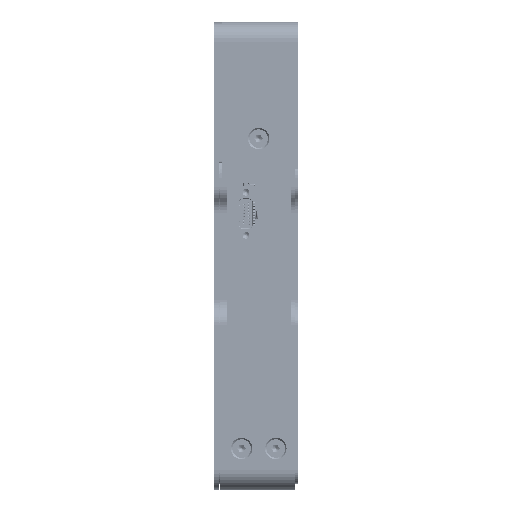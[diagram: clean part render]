
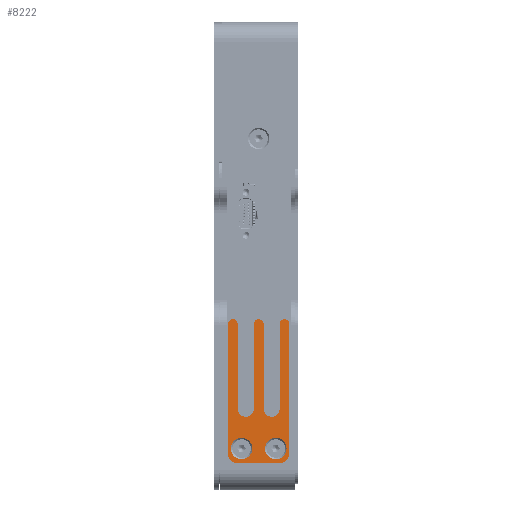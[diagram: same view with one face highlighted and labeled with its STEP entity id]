
A CAD part, left-side view. The second image highlights one B-rep face of the part: STEP entity #8222.
In plain terms, the highlighted planar face has unit normal (-1, 0, 0) as drawn and (0, 0, 1) by its records, which use the part's own axes.
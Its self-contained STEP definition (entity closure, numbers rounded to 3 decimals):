
#97 = CARTESIAN_POINT ( 'NONE',  ( -25.75, 1., 2.5 ) ) ;
#5669 = DIRECTION ( 'NONE',  ( 0., 0., 1. ) ) ;
#5999 = CIRCLE ( 'NONE', #287779, 1.65 ) ;
#8222 = ADVANCED_FACE ( 'NONE', ( #49260, #178809, #27135 ), #246366, .F. ) ;
#10120 = EDGE_CURVE ( 'NONE', #128109, #82832, #5999, .T. ) ;
#10321 = ORIENTED_EDGE ( 'NONE', *, *, #126198, .F. ) ;
#11836 = ORIENTED_EDGE ( 'NONE', *, *, #84882, .F. ) ;
#12882 = DIRECTION ( 'NONE',  ( 0., 0., 1. ) ) ;
#15951 = VECTOR ( 'NONE', #24165, 1000. ) ;
#21176 = CIRCLE ( 'NONE', #63449, 2.2 ) ;
#22415 = CARTESIAN_POINT ( 'NONE',  ( -24.1, -1., 2.5 ) ) ;
#22829 = DIRECTION ( 'NONE',  ( -1., 0., 0. ) ) ;
#23592 = CARTESIAN_POINT ( 'NONE',  ( -25.75, -4.3, 2.5 ) ) ;
#24165 = DIRECTION ( 'NONE',  ( -1., 0., 0. ) ) ;
#24381 = ORIENTED_EDGE ( 'NONE', *, *, #255467, .T. ) ;
#27132 = CARTESIAN_POINT ( 'NONE',  ( -6.75, -6.3, 2.5 ) ) ;
#27135 = FACE_OUTER_BOUND ( 'NONE', #189536, .T. ) ;
#29241 = ORIENTED_EDGE ( 'NONE', *, *, #30064, .F. ) ;
#29260 = CARTESIAN_POINT ( 'NONE',  ( -6.75, 1., 2.5 ) ) ;
#29936 = VECTOR ( 'NONE', #198717, 1000. ) ;
#30064 = EDGE_CURVE ( 'NONE', #36482, #36482, #21176, .T. ) ;
#30186 = DIRECTION ( 'NONE',  ( 0., 0., 1. ) ) ;
#32598 = CARTESIAN_POINT ( 'NONE',  ( -35.25, 6.3, 2.5 ) ) ;
#33662 = EDGE_CURVE ( 'NONE', #202876, #144495, #58311, .T. ) ;
#36482 = VERTEX_POINT ( 'NONE', #126221 ) ;
#37637 = EDGE_CURVE ( 'NONE', #176435, #219535, #227944, .T. ) ;
#41069 = DIRECTION ( 'NONE',  ( -1., 0., 0. ) ) ;
#43314 = VECTOR ( 'NONE', #273454, 1000. ) ;
#44471 = VERTEX_POINT ( 'NONE', #115069 ) ;
#47112 = VERTEX_POINT ( 'NONE', #119913 ) ;
#47288 = VERTEX_POINT ( 'NONE', #102269 ) ;
#49260 = FACE_BOUND ( 'NONE', #161833, .T. ) ;
#51808 = DIRECTION ( 'NONE',  ( -1., 0., 0. ) ) ;
#52788 = CARTESIAN_POINT ( 'NONE',  ( -6.75, 0., 2.5 ) ) ;
#53314 = CARTESIAN_POINT ( 'NONE',  ( -35.25, -6.3, 2.5 ) ) ;
#56167 = ORIENTED_EDGE ( 'NONE', *, *, #248293, .T. ) ;
#58311 = CIRCLE ( 'NONE', #166363, 2. ) ;
#58618 = ORIENTED_EDGE ( 'NONE', *, *, #268567, .T. ) ;
#59063 = DIRECTION ( 'NONE',  ( -1., 0., 0. ) ) ;
#63449 = AXIS2_PLACEMENT_3D ( 'NONE', #232071, #12882, #186544 ) ;
#66830 = CARTESIAN_POINT ( 'NONE',  ( -6.75, 5.3, 2.5 ) ) ;
#79514 = CARTESIAN_POINT ( 'NONE',  ( -24.1, -2.65, 2.5 ) ) ;
#80834 = DIRECTION ( 'NONE',  ( 0., 0., 1. ) ) ;
#82832 = VERTEX_POINT ( 'NONE', #189295 ) ;
#84079 = DIRECTION ( 'NONE',  ( 0., 0., 1. ) ) ;
#84265 = EDGE_CURVE ( 'NONE', #82832, #114347, #155987, .T. ) ;
#84882 = EDGE_CURVE ( 'NONE', #268130, #128109, #176381, .T. ) ;
#91887 = CARTESIAN_POINT ( 'NONE',  ( -25.75, 4.3, 2.5 ) ) ;
#94156 = LINE ( 'NONE', #183820, #43314 ) ;
#94791 = AXIS2_PLACEMENT_3D ( 'NONE', #221962, #266106, #160015 ) ;
#102269 = CARTESIAN_POINT ( 'NONE',  ( -24.1, 4.3, 2.5 ) ) ;
#102640 = CIRCLE ( 'NONE', #238778, 1. ) ;
#103471 = AXIS2_PLACEMENT_3D ( 'NONE', #229919, #184388, #185842 ) ;
#105454 = VECTOR ( 'NONE', #41069, 1000. ) ;
#105525 = EDGE_CURVE ( 'NONE', #268130, #219535, #193863, .T. ) ;
#106314 = ORIENTED_EDGE ( 'NONE', *, *, #224627, .T. ) ;
#109524 = DIRECTION ( 'NONE',  ( -1., 0., 0. ) ) ;
#114347 = VERTEX_POINT ( 'NONE', #260618 ) ;
#115069 = CARTESIAN_POINT ( 'NONE',  ( -30.05, -3.5, 2.5 ) ) ;
#119906 = ORIENTED_EDGE ( 'NONE', *, *, #105525, .T. ) ;
#119913 = CARTESIAN_POINT ( 'NONE',  ( -6.75, 6.3, 2.5 ) ) ;
#125004 = EDGE_CURVE ( 'NONE', #144495, #230195, #278234, .T. ) ;
#126198 = EDGE_CURVE ( 'NONE', #44471, #44471, #179410, .T. ) ;
#126221 = CARTESIAN_POINT ( 'NONE',  ( -30.05, 3.5, 2.5 ) ) ;
#126364 = CARTESIAN_POINT ( 'NONE',  ( -6.75, -5.3, 2.5 ) ) ;
#128109 = VERTEX_POINT ( 'NONE', #22415 ) ;
#133624 = ORIENTED_EDGE ( 'NONE', *, *, #178320, .F. ) ;
#134415 = DIRECTION ( 'NONE',  ( 0., 0., 1. ) ) ;
#134611 = CARTESIAN_POINT ( 'NONE',  ( 0., 0., 2.5 ) ) ;
#137600 = CARTESIAN_POINT ( 'NONE',  ( -33.25, -4.3, 2.5 ) ) ;
#138852 = CARTESIAN_POINT ( 'NONE',  ( -6.75, 4.3, 2.5 ) ) ;
#142403 = DIRECTION ( 'NONE',  ( -1., 0., 0. ) ) ;
#143697 = VERTEX_POINT ( 'NONE', #138852 ) ;
#144495 = VERTEX_POINT ( 'NONE', #275819 ) ;
#145535 = EDGE_CURVE ( 'NONE', #143697, #47288, #288963, .T. ) ;
#145774 = VECTOR ( 'NONE', #145884, 1000. ) ;
#145884 = DIRECTION ( 'NONE',  ( 1., 0., 0. ) ) ;
#150441 = CIRCLE ( 'NONE', #103471, 2. ) ;
#154641 = ORIENTED_EDGE ( 'NONE', *, *, #211215, .T. ) ;
#155987 = LINE ( 'NONE', #23592, #29936 ) ;
#156178 = AXIS2_PLACEMENT_3D ( 'NONE', #52788, #5669, #142403 ) ;
#160015 = DIRECTION ( 'NONE',  ( 1., 0., 0. ) ) ;
#161833 = EDGE_LOOP ( 'NONE', ( #29241 ) ) ;
#165508 = CARTESIAN_POINT ( 'NONE',  ( -24.1, 1., 2.5 ) ) ;
#166363 = AXIS2_PLACEMENT_3D ( 'NONE', #137600, #30186, #249355 ) ;
#168556 = VECTOR ( 'NONE', #270647, 1000. ) ;
#170462 = DIRECTION ( 'NONE',  ( -1., 0., 0. ) ) ;
#174599 = AXIS2_PLACEMENT_3D ( 'NONE', #264855, #84079, #59063 ) ;
#176381 = LINE ( 'NONE', #242504, #105454 ) ;
#176435 = VERTEX_POINT ( 'NONE', #165508 ) ;
#178320 = EDGE_CURVE ( 'NONE', #47288, #176435, #240243, .T. ) ;
#178809 = FACE_BOUND ( 'NONE', #282701, .T. ) ;
#179410 = CIRCLE ( 'NONE', #94791, 2.2 ) ;
#183820 = CARTESIAN_POINT ( 'NONE',  ( -35.25, -6.3, 2.5 ) ) ;
#184388 = DIRECTION ( 'NONE',  ( 0., 0., 1. ) ) ;
#185842 = DIRECTION ( 'NONE',  ( -1., 0., 0. ) ) ;
#186544 = DIRECTION ( 'NONE',  ( 1., 0., 0. ) ) ;
#187078 = AXIS2_PLACEMENT_3D ( 'NONE', #66830, #134415, #109524 ) ;
#188537 = LINE ( 'NONE', #32598, #254157 ) ;
#189190 = ORIENTED_EDGE ( 'NONE', *, *, #84265, .F. ) ;
#189295 = CARTESIAN_POINT ( 'NONE',  ( -24.1, -4.3, 2.5 ) ) ;
#189536 = EDGE_LOOP ( 'NONE', ( #259081, #154641, #189190, #274169, #11836, #119906, #214046, #133624, #232420, #106314, #24381, #58618, #56167, #217675 ) ) ;
#193863 = CIRCLE ( 'NONE', #156178, 1. ) ;
#198717 = DIRECTION ( 'NONE',  ( 1., 0., 0. ) ) ;
#202876 = VERTEX_POINT ( 'NONE', #252640 ) ;
#211215 = EDGE_CURVE ( 'NONE', #230195, #114347, #102640, .T. ) ;
#214046 = ORIENTED_EDGE ( 'NONE', *, *, #37637, .F. ) ;
#216746 = VERTEX_POINT ( 'NONE', #221453 ) ;
#217675 = ORIENTED_EDGE ( 'NONE', *, *, #33662, .T. ) ;
#219535 = VERTEX_POINT ( 'NONE', #29260 ) ;
#221453 = CARTESIAN_POINT ( 'NONE',  ( -35.25, 4.3, 2.5 ) ) ;
#221962 = CARTESIAN_POINT ( 'NONE',  ( -32.25, -3.5, 2.5 ) ) ;
#224331 = DIRECTION ( 'NONE',  ( 0., 0., -1. ) ) ;
#224627 = EDGE_CURVE ( 'NONE', #143697, #47112, #257364, .T. ) ;
#227944 = LINE ( 'NONE', #97, #168556 ) ;
#229919 = CARTESIAN_POINT ( 'NONE',  ( -33.25, 4.3, 2.5 ) ) ;
#230195 = VERTEX_POINT ( 'NONE', #27132 ) ;
#232071 = CARTESIAN_POINT ( 'NONE',  ( -32.25, 3.5, 2.5 ) ) ;
#232420 = ORIENTED_EDGE ( 'NONE', *, *, #145535, .F. ) ;
#238208 = DIRECTION ( 'NONE',  ( -1., 0., 0. ) ) ;
#238778 = AXIS2_PLACEMENT_3D ( 'NONE', #126364, #80834, #170462 ) ;
#240243 = CIRCLE ( 'NONE', #174599, 1.65 ) ;
#241211 = AXIS2_PLACEMENT_3D ( 'NONE', #134611, #224331, #22829 ) ;
#242504 = CARTESIAN_POINT ( 'NONE',  ( -25.75, -1., 2.5 ) ) ;
#246366 = PLANE ( 'NONE',  #241211 ) ;
#247252 = VERTEX_POINT ( 'NONE', #264834 ) ;
#248293 = EDGE_CURVE ( 'NONE', #216746, #202876, #94156, .T. ) ;
#249355 = DIRECTION ( 'NONE',  ( -1., 0., 0. ) ) ;
#252640 = CARTESIAN_POINT ( 'NONE',  ( -35.25, -4.3, 2.5 ) ) ;
#254157 = VECTOR ( 'NONE', #51808, 1000. ) ;
#255467 = EDGE_CURVE ( 'NONE', #47112, #247252, #188537, .T. ) ;
#257364 = CIRCLE ( 'NONE', #187078, 1. ) ;
#259081 = ORIENTED_EDGE ( 'NONE', *, *, #125004, .T. ) ;
#260618 = CARTESIAN_POINT ( 'NONE',  ( -6.75, -4.3, 2.5 ) ) ;
#264834 = CARTESIAN_POINT ( 'NONE',  ( -33.25, 6.3, 2.5 ) ) ;
#264855 = CARTESIAN_POINT ( 'NONE',  ( -24.1, 2.65, 2.5 ) ) ;
#266106 = DIRECTION ( 'NONE',  ( 0., 0., 1. ) ) ;
#268130 = VERTEX_POINT ( 'NONE', #290456 ) ;
#268567 = EDGE_CURVE ( 'NONE', #247252, #216746, #150441, .T. ) ;
#270647 = DIRECTION ( 'NONE',  ( 1., 0., 0. ) ) ;
#273454 = DIRECTION ( 'NONE',  ( 0., -1., 0. ) ) ;
#274169 = ORIENTED_EDGE ( 'NONE', *, *, #10120, .F. ) ;
#275819 = CARTESIAN_POINT ( 'NONE',  ( -33.25, -6.3, 2.5 ) ) ;
#278234 = LINE ( 'NONE', #53314, #145774 ) ;
#282701 = EDGE_LOOP ( 'NONE', ( #10321 ) ) ;
#285240 = DIRECTION ( 'NONE',  ( 0., 0., 1. ) ) ;
#287779 = AXIS2_PLACEMENT_3D ( 'NONE', #79514, #285240, #238208 ) ;
#288963 = LINE ( 'NONE', #91887, #15951 ) ;
#290456 = CARTESIAN_POINT ( 'NONE',  ( -6.75, -1., 2.5 ) ) ;
